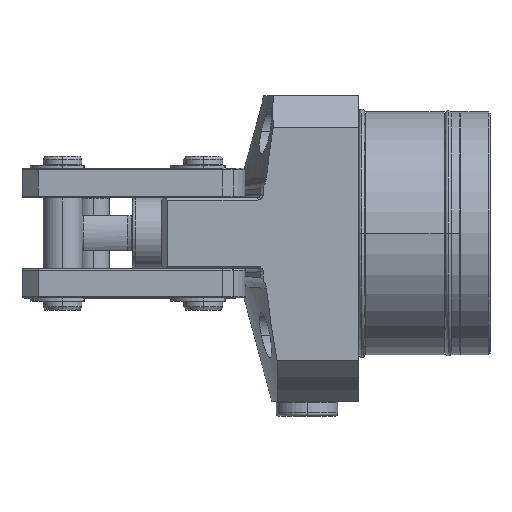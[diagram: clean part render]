
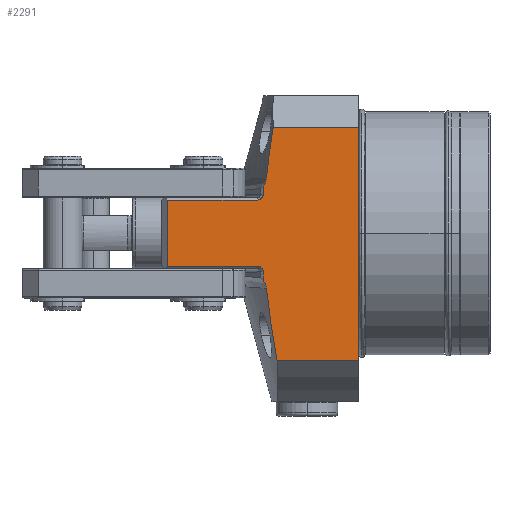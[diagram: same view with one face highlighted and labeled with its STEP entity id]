
A CAD part, top view. The second image highlights one B-rep face of the part: STEP entity #2291.
In plain terms, the highlighted planar face has unit normal (0, 0, 1).
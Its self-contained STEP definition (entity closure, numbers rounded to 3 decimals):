
#1598=PLANE('',#8200);
#1761=B_SPLINE_CURVE_WITH_KNOTS('',3,(#11916,#11917,#11918,#11919),
 .UNSPECIFIED.,.F.,.F.,(4,4),(0.,1.),.UNSPECIFIED.);
#1769=B_SPLINE_CURVE_WITH_KNOTS('',3,(#12100,#12101,#12102,#12103,#12104,
#12105,#12106),.UNSPECIFIED.,.F.,.F.,(4,3,4),(0.,0.48,1.),
 .UNSPECIFIED.);
#1777=B_SPLINE_CURVE_WITH_KNOTS('',3,(#12210,#12211,#12212,#12213,#12214,
#12215,#12216,#12217,#12218,#12219,#12220,#12221,#12222,#12223,#12224,#12225,
#12226,#12227),.UNSPECIFIED.,.F.,.F.,(4,2,2,2,2,2,2,2,4),(0.,0.125,0.25,
0.375,0.5,0.625,0.75,0.875,1.),.UNSPECIFIED.);
#1778=B_SPLINE_CURVE_WITH_KNOTS('',3,(#12237,#12238,#12239,#12240),
 .UNSPECIFIED.,.F.,.F.,(4,4),(0.,1.),.UNSPECIFIED.);
#1779=B_SPLINE_CURVE_WITH_KNOTS('',3,(#12242,#12243,#12244,#12245,#12246,
#12247,#12248),.UNSPECIFIED.,.F.,.F.,(4,3,4),(0.,0.48,1.),
 .UNSPECIFIED.);
#1780=B_SPLINE_CURVE_WITH_KNOTS('',3,(#12252,#12253,#12254,#12255,#12256,
#12257,#12258,#12259,#12260,#12261,#12262,#12263,#12264,#12265,#12266,#12267,
#12268,#12269),.UNSPECIFIED.,.F.,.F.,(4,2,2,2,2,2,2,2,4),(0.,0.125,0.25,
0.375,0.5,0.625,0.75,0.875,1.),.UNSPECIFIED.);
#2291=ADVANCED_FACE('',(#2717),#1598,.T.);
#2717=FACE_OUTER_BOUND('',#3105,.T.);
#3105=EDGE_LOOP('',(#5056,#5057,#5058,#5059,#5060,#5061,#5062,#5063,#5064,
#5065,#5066,#5067,#5068,#5069));
#3522=LINE('',#12230,#3852);
#3523=LINE('',#12231,#3853);
#3524=LINE('',#12233,#3854);
#3525=LINE('',#12235,#3855);
#3526=LINE('',#12250,#3856);
#3527=LINE('',#12271,#3857);
#3528=LINE('',#12273,#3858);
#3529=LINE('',#12275,#3859);
#3852=VECTOR('',#9903,1.);
#3853=VECTOR('',#9904,1.);
#3854=VECTOR('',#9905,1.);
#3855=VECTOR('',#9906,1.);
#3856=VECTOR('',#9907,1.);
#3857=VECTOR('',#9908,1.);
#3858=VECTOR('',#9909,1.);
#3859=VECTOR('',#9910,1.);
#5056=ORIENTED_EDGE('',*,*,#6885,.T.);
#5057=ORIENTED_EDGE('',*,*,#6886,.T.);
#5058=ORIENTED_EDGE('',*,*,#6877,.T.);
#5059=ORIENTED_EDGE('',*,*,#6826,.T.);
#5060=ORIENTED_EDGE('',*,*,#6887,.T.);
#5061=ORIENTED_EDGE('',*,*,#6888,.T.);
#5062=ORIENTED_EDGE('',*,*,#6889,.F.);
#5063=ORIENTED_EDGE('',*,*,#6890,.T.);
#5064=ORIENTED_EDGE('',*,*,#6891,.T.);
#5065=ORIENTED_EDGE('',*,*,#6892,.T.);
#5066=ORIENTED_EDGE('',*,*,#6893,.T.);
#5067=ORIENTED_EDGE('',*,*,#6894,.T.);
#5068=ORIENTED_EDGE('',*,*,#6895,.T.);
#5069=ORIENTED_EDGE('',*,*,#6896,.T.);
#6086=VERTEX_POINT('',#11915);
#6087=VERTEX_POINT('',#11920);
#6126=VERTEX_POINT('',#12107);
#6131=VERTEX_POINT('',#12228);
#6132=VERTEX_POINT('',#12229);
#6133=VERTEX_POINT('',#12232);
#6134=VERTEX_POINT('',#12234);
#6135=VERTEX_POINT('',#12236);
#6136=VERTEX_POINT('',#12241);
#6137=VERTEX_POINT('',#12249);
#6138=VERTEX_POINT('',#12251);
#6139=VERTEX_POINT('',#12270);
#6140=VERTEX_POINT('',#12272);
#6141=VERTEX_POINT('',#12274);
#6826=EDGE_CURVE('',#6087,#6086,#1761,.T.);
#6877=EDGE_CURVE('',#6126,#6087,#1769,.T.);
#6885=EDGE_CURVE('',#6131,#6132,#1777,.T.);
#6886=EDGE_CURVE('',#6132,#6126,#3522,.T.);
#6887=EDGE_CURVE('',#6086,#6133,#3523,.T.);
#6888=EDGE_CURVE('',#6133,#6134,#3524,.T.);
#6889=EDGE_CURVE('',#6135,#6134,#3525,.T.);
#6890=EDGE_CURVE('',#6135,#6136,#1778,.T.);
#6891=EDGE_CURVE('',#6136,#6137,#1779,.T.);
#6892=EDGE_CURVE('',#6137,#6138,#3526,.T.);
#6893=EDGE_CURVE('',#6138,#6139,#1780,.T.);
#6894=EDGE_CURVE('',#6139,#6140,#3527,.T.);
#6895=EDGE_CURVE('',#6140,#6141,#3528,.T.);
#6896=EDGE_CURVE('',#6141,#6131,#3529,.T.);
#8200=AXIS2_PLACEMENT_3D('',#12276,#9911,#9912);
#9903=DIRECTION('',(0.,-1.,0.));
#9904=DIRECTION('',(1.,0.,0.));
#9905=DIRECTION('',(0.,1.,0.));
#9906=DIRECTION('',(1.,0.,0.));
#9907=DIRECTION('',(0.,-1.,0.));
#9908=DIRECTION('',(-1.,0.,0.));
#9909=DIRECTION('',(0.,-1.,0.));
#9910=DIRECTION('',(1.,0.,0.));
#9911=DIRECTION('',(0.,0.,1.));
#9912=DIRECTION('',(1.,0.,0.));
#11915=CARTESIAN_POINT('',(-25.237,-39.468,42.5));
#11916=CARTESIAN_POINT('',(-28.511,-17.019,42.5));
#11917=CARTESIAN_POINT('',(-27.76,-24.552,42.5));
#11918=CARTESIAN_POINT('',(-26.594,-32.024,42.5));
#11919=CARTESIAN_POINT('',(-25.237,-39.468,42.5));
#11920=CARTESIAN_POINT('',(-28.511,-17.019,42.5));
#12100=CARTESIAN_POINT('',(-29.527,-14.488,42.5));
#12101=CARTESIAN_POINT('',(-29.256,-14.836,42.5));
#12102=CARTESIAN_POINT('',(-29.03,-15.223,42.5));
#12103=CARTESIAN_POINT('',(-28.861,-15.63,42.5));
#12104=CARTESIAN_POINT('',(-28.677,-16.071,42.5));
#12105=CARTESIAN_POINT('',(-28.558,-16.544,42.5));
#12106=CARTESIAN_POINT('',(-28.511,-17.019,42.5));
#12107=CARTESIAN_POINT('',(-29.527,-14.488,42.5));
#12210=CARTESIAN_POINT('',(-31.39,-10.2,42.5));
#12211=CARTESIAN_POINT('',(-31.268,-10.2,42.5));
#12212=CARTESIAN_POINT('',(-31.146,-10.212,42.5));
#12213=CARTESIAN_POINT('',(-30.907,-10.258,42.5));
#12214=CARTESIAN_POINT('',(-30.79,-10.292,42.5));
#12215=CARTESIAN_POINT('',(-30.564,-10.382,42.5));
#12216=CARTESIAN_POINT('',(-30.456,-10.438,42.5));
#12217=CARTESIAN_POINT('',(-30.254,-10.569,42.5));
#12218=CARTESIAN_POINT('',(-30.159,-10.644,42.5));
#12219=CARTESIAN_POINT('',(-29.986,-10.811,42.5));
#12220=CARTESIAN_POINT('',(-29.909,-10.902,42.5));
#12221=CARTESIAN_POINT('',(-29.773,-11.098,42.5));
#12222=CARTESIAN_POINT('',(-29.715,-11.202,42.5));
#12223=CARTESIAN_POINT('',(-29.622,-11.42,42.5));
#12224=CARTESIAN_POINT('',(-29.586,-11.533,42.5));
#12225=CARTESIAN_POINT('',(-29.539,-11.764,42.5));
#12226=CARTESIAN_POINT('',(-29.527,-11.882,42.5));
#12227=CARTESIAN_POINT('',(-29.527,-12.,42.5));
#12228=CARTESIAN_POINT('',(-31.39,-10.2,42.5));
#12229=CARTESIAN_POINT('',(-29.527,-12.,42.5));
#12230=CARTESIAN_POINT('',(-29.527,-12.5,42.5));
#12231=CARTESIAN_POINT('',(-61.,-39.468,42.5));
#12232=CARTESIAN_POINT('',(0.,-39.468,42.5));
#12233=CARTESIAN_POINT('',(0.,32.5,42.5));
#12234=CARTESIAN_POINT('',(0.,32.5,42.5));
#12235=CARTESIAN_POINT('',(-61.,32.5,42.5));
#12236=CARTESIAN_POINT('',(-26.442,32.5,42.5));
#12237=CARTESIAN_POINT('',(-26.442,32.5,42.5));
#12238=CARTESIAN_POINT('',(-27.278,27.359,42.5));
#12239=CARTESIAN_POINT('',(-27.994,22.202,42.5));
#12240=CARTESIAN_POINT('',(-28.511,17.019,42.5));
#12241=CARTESIAN_POINT('',(-28.511,17.019,42.5));
#12242=CARTESIAN_POINT('',(-28.511,17.019,42.5));
#12243=CARTESIAN_POINT('',(-28.554,16.58,42.5));
#12244=CARTESIAN_POINT('',(-28.659,16.144,42.5));
#12245=CARTESIAN_POINT('',(-28.819,15.733,42.5));
#12246=CARTESIAN_POINT('',(-28.992,15.288,42.5));
#12247=CARTESIAN_POINT('',(-29.234,14.865,42.5));
#12248=CARTESIAN_POINT('',(-29.527,14.488,42.5));
#12249=CARTESIAN_POINT('',(-29.527,14.488,42.5));
#12250=CARTESIAN_POINT('',(-29.527,12.,42.5));
#12251=CARTESIAN_POINT('',(-29.527,12.,42.5));
#12252=CARTESIAN_POINT('',(-29.527,12.,42.5));
#12253=CARTESIAN_POINT('',(-29.527,11.882,42.5));
#12254=CARTESIAN_POINT('',(-29.539,11.764,42.5));
#12255=CARTESIAN_POINT('',(-29.586,11.533,42.5));
#12256=CARTESIAN_POINT('',(-29.622,11.42,42.5));
#12257=CARTESIAN_POINT('',(-29.715,11.202,42.5));
#12258=CARTESIAN_POINT('',(-29.773,11.098,42.5));
#12259=CARTESIAN_POINT('',(-29.909,10.902,42.5));
#12260=CARTESIAN_POINT('',(-29.986,10.811,42.5));
#12261=CARTESIAN_POINT('',(-30.159,10.644,42.5));
#12262=CARTESIAN_POINT('',(-30.254,10.569,42.5));
#12263=CARTESIAN_POINT('',(-30.456,10.438,42.5));
#12264=CARTESIAN_POINT('',(-30.564,10.382,42.5));
#12265=CARTESIAN_POINT('',(-30.79,10.292,42.5));
#12266=CARTESIAN_POINT('',(-30.907,10.258,42.5));
#12267=CARTESIAN_POINT('',(-31.146,10.212,42.5));
#12268=CARTESIAN_POINT('',(-31.268,10.2,42.5));
#12269=CARTESIAN_POINT('',(-31.39,10.2,42.5));
#12270=CARTESIAN_POINT('',(-31.39,10.2,42.5));
#12271=CARTESIAN_POINT('',(-61.,10.2,42.5));
#12272=CARTESIAN_POINT('',(-59.,10.2,42.5));
#12273=CARTESIAN_POINT('',(-59.,-11.,42.5));
#12274=CARTESIAN_POINT('',(-59.,-10.2,42.5));
#12275=CARTESIAN_POINT('',(-61.,-10.2,42.5));
#12276=CARTESIAN_POINT('',(-61.,-12.5,42.5));
